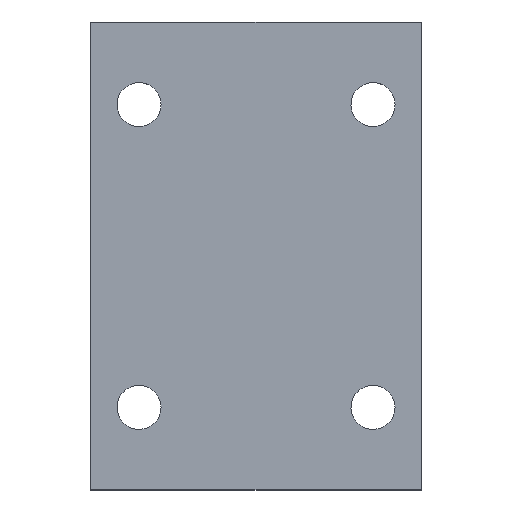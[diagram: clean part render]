
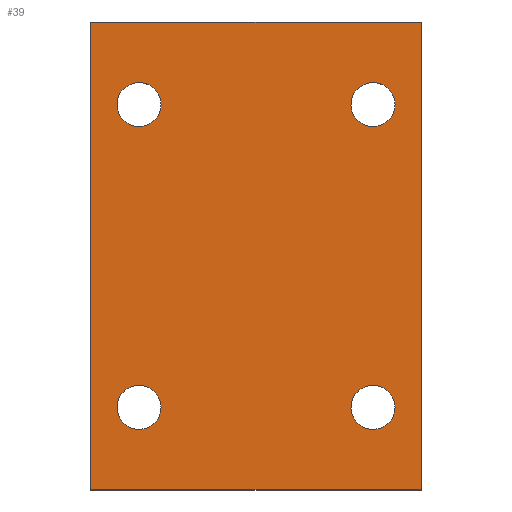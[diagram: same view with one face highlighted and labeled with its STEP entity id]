
A CAD part, top view. The second image highlights one B-rep face of the part: STEP entity #39.
In plain terms, the highlighted free-form (B-spline) face has degree [1, 1] with [2, 2] control points.
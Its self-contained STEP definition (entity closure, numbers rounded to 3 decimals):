
#10 = VERTEX_POINT('', #11);
#11 = CARTESIAN_POINT('', (-102.037, 117., 3.6));
#16 = EDGE_CURVE('', #10, #17, #19, .T.);
#17 = VERTEX_POINT('', #18);
#18 = CARTESIAN_POINT('', (-78.037, 117., 3.6));
#19 = B_SPLINE_CURVE_WITH_KNOTS('', 1, (#20, #21), .UNSPECIFIED., .F., .U., (2, 2), (0., 24.), .UNSPECIFIED.);
#20 = CARTESIAN_POINT('', (-102.037, 117., 3.6));
#21 = CARTESIAN_POINT('', (-78.037, 117., 3.6));
#39 = ADVANCED_FACE('', (#40, #62, #78, #94, #110), #126, .T.);
#40 = FACE_OUTER_BOUND('', #41, .T.);
#41 = EDGE_LOOP('', (#42, #49, #56, #61));
#42 = ORIENTED_EDGE('', *, *, #43, .F.);
#43 = EDGE_CURVE('', #44, #10, #46, .T.);
#44 = VERTEX_POINT('', #45);
#45 = CARTESIAN_POINT('', (-102.037, 83., 3.6));
#46 = B_SPLINE_CURVE_WITH_KNOTS('', 1, (#47, #48), .UNSPECIFIED., .F., .U., (2, 2), (0., 34.), .UNSPECIFIED.);
#47 = CARTESIAN_POINT('', (-102.037, 83., 3.6));
#48 = CARTESIAN_POINT('', (-102.037, 117., 3.6));
#49 = ORIENTED_EDGE('', *, *, #50, .T.);
#50 = EDGE_CURVE('', #44, #51, #53, .T.);
#51 = VERTEX_POINT('', #52);
#52 = CARTESIAN_POINT('', (-78.037, 83., 3.6));
#53 = B_SPLINE_CURVE_WITH_KNOTS('', 1, (#54, #55), .UNSPECIFIED., .F., .U., (2, 2), (0., 24.), .UNSPECIFIED.);
#54 = CARTESIAN_POINT('', (-102.037, 83., 3.6));
#55 = CARTESIAN_POINT('', (-78.037, 83., 3.6));
#56 = ORIENTED_EDGE('', *, *, #57, .T.);
#57 = EDGE_CURVE('', #51, #17, #58, .T.);
#58 = B_SPLINE_CURVE_WITH_KNOTS('', 1, (#59, #60), .UNSPECIFIED., .F., .U., (2, 2), (0., 34.), .UNSPECIFIED.);
#59 = CARTESIAN_POINT('', (-78.037, 83., 3.6));
#60 = CARTESIAN_POINT('', (-78.037, 117., 3.6));
#61 = ORIENTED_EDGE('', *, *, #16, .F.);
#62 = FACE_BOUND('', #63, .T.);
#63 = EDGE_LOOP('', (#64));
#64 = ORIENTED_EDGE('', *, *, #65, .F.);
#65 = EDGE_CURVE('', #66, #66, #68, .T.);
#66 = VERTEX_POINT('', #67);
#67 = CARTESIAN_POINT('', (-96.937, 89., 3.6));
#68 = (
   BOUNDED_CURVE ()
   B_SPLINE_CURVE (2, (#69, #70, #71, #72, #73, #74, #75, #76, #77), .UNSPECIFIED., .T., .U.)
   B_SPLINE_CURVE_WITH_KNOTS ((3, 2, 2, 2, 3), (0., 0.25, 0.5, 0.75, 1.), .UNSPECIFIED.)
   CURVE ()
   GEOMETRIC_REPRESENTATION_ITEM ()
   RATIONAL_B_SPLINE_CURVE ((1., 0.707, 1., 0.707, 1., 0.707, 1., 0.707, 1.))
   REPRESENTATION_ITEM ('')
);
#69 = CARTESIAN_POINT('', (-96.937, 89., 3.6));
#70 = CARTESIAN_POINT('', (-96.937, 90.6, 3.6));
#71 = CARTESIAN_POINT('', (-98.537, 90.6, 3.6));
#72 = CARTESIAN_POINT('', (-100.137, 90.6, 3.6));
#73 = CARTESIAN_POINT('', (-100.137, 89., 3.6));
#74 = CARTESIAN_POINT('', (-100.137, 87.4, 3.6));
#75 = CARTESIAN_POINT('', (-98.537, 87.4, 3.6));
#76 = CARTESIAN_POINT('', (-96.937, 87.4, 3.6));
#77 = CARTESIAN_POINT('', (-96.937, 89., 3.6));
#78 = FACE_BOUND('', #79, .T.);
#79 = EDGE_LOOP('', (#80));
#80 = ORIENTED_EDGE('', *, *, #81, .F.);
#81 = EDGE_CURVE('', #82, #82, #84, .T.);
#82 = VERTEX_POINT('', #83);
#83 = CARTESIAN_POINT('', (-96.937, 111., 3.6));
#84 = (
   BOUNDED_CURVE ()
   B_SPLINE_CURVE (2, (#85, #86, #87, #88, #89, #90, #91, #92, #93), .UNSPECIFIED., .T., .U.)
   B_SPLINE_CURVE_WITH_KNOTS ((3, 2, 2, 2, 3), (0., 0.25, 0.5, 0.75, 1.), .UNSPECIFIED.)
   CURVE ()
   GEOMETRIC_REPRESENTATION_ITEM ()
   RATIONAL_B_SPLINE_CURVE ((1., 0.707, 1., 0.707, 1., 0.707, 1., 0.707, 1.))
   REPRESENTATION_ITEM ('')
);
#85 = CARTESIAN_POINT('', (-96.937, 111., 3.6));
#86 = CARTESIAN_POINT('', (-96.937, 112.6, 3.6));
#87 = CARTESIAN_POINT('', (-98.537, 112.6, 3.6));
#88 = CARTESIAN_POINT('', (-100.137, 112.6, 3.6));
#89 = CARTESIAN_POINT('', (-100.137, 111., 3.6));
#90 = CARTESIAN_POINT('', (-100.137, 109.4, 3.6));
#91 = CARTESIAN_POINT('', (-98.537, 109.4, 3.6));
#92 = CARTESIAN_POINT('', (-96.937, 109.4, 3.6));
#93 = CARTESIAN_POINT('', (-96.937, 111., 3.6));
#94 = FACE_BOUND('', #95, .T.);
#95 = EDGE_LOOP('', (#96));
#96 = ORIENTED_EDGE('', *, *, #97, .F.);
#97 = EDGE_CURVE('', #98, #98, #100, .T.);
#98 = VERTEX_POINT('', #99);
#99 = CARTESIAN_POINT('', (-79.937, 89., 3.6));
#100 = (
   BOUNDED_CURVE ()
   B_SPLINE_CURVE (2, (#101, #102, #103, #104, #105, #106, #107, #108, #109), .UNSPECIFIED., .T., .U.)
   B_SPLINE_CURVE_WITH_KNOTS ((3, 2, 2, 2, 3), (0., 0.25, 0.5, 0.75, 1.), .UNSPECIFIED.)
   CURVE ()
   GEOMETRIC_REPRESENTATION_ITEM ()
   RATIONAL_B_SPLINE_CURVE ((1., 0.707, 1., 0.707, 1., 0.707, 1., 0.707, 1.))
   REPRESENTATION_ITEM ('')
);
#101 = CARTESIAN_POINT('', (-79.937, 89., 3.6));
#102 = CARTESIAN_POINT('', (-79.937, 90.6, 3.6));
#103 = CARTESIAN_POINT('', (-81.537, 90.6, 3.6));
#104 = CARTESIAN_POINT('', (-83.137, 90.6, 3.6));
#105 = CARTESIAN_POINT('', (-83.137, 89., 3.6));
#106 = CARTESIAN_POINT('', (-83.137, 87.4, 3.6));
#107 = CARTESIAN_POINT('', (-81.537, 87.4, 3.6));
#108 = CARTESIAN_POINT('', (-79.937, 87.4, 3.6));
#109 = CARTESIAN_POINT('', (-79.937, 89., 3.6));
#110 = FACE_BOUND('', #111, .T.);
#111 = EDGE_LOOP('', (#112));
#112 = ORIENTED_EDGE('', *, *, #113, .F.);
#113 = EDGE_CURVE('', #114, #114, #116, .T.);
#114 = VERTEX_POINT('', #115);
#115 = CARTESIAN_POINT('', (-79.937, 111., 3.6));
#116 = (
   BOUNDED_CURVE ()
   B_SPLINE_CURVE (2, (#117, #118, #119, #120, #121, #122, #123, #124, #125), .UNSPECIFIED., .T., .U.)
   B_SPLINE_CURVE_WITH_KNOTS ((3, 2, 2, 2, 3), (0., 0.25, 0.5, 0.75, 1.), .UNSPECIFIED.)
   CURVE ()
   GEOMETRIC_REPRESENTATION_ITEM ()
   RATIONAL_B_SPLINE_CURVE ((1., 0.707, 1., 0.707, 1., 0.707, 1., 0.707, 1.))
   REPRESENTATION_ITEM ('')
);
#117 = CARTESIAN_POINT('', (-79.937, 111., 3.6));
#118 = CARTESIAN_POINT('', (-79.937, 112.6, 3.6));
#119 = CARTESIAN_POINT('', (-81.537, 112.6, 3.6));
#120 = CARTESIAN_POINT('', (-83.137, 112.6, 3.6));
#121 = CARTESIAN_POINT('', (-83.137, 111., 3.6));
#122 = CARTESIAN_POINT('', (-83.137, 109.4, 3.6));
#123 = CARTESIAN_POINT('', (-81.537, 109.4, 3.6));
#124 = CARTESIAN_POINT('', (-79.937, 109.4, 3.6));
#125 = CARTESIAN_POINT('', (-79.937, 111., 3.6));
#126 = B_SPLINE_SURFACE_WITH_KNOTS('', 1, 1, ((#127, #128), (#129, #130)), .UNSPECIFIED., .F., .F., .U., (2, 2), (2, 2), (0., 24.), (0., 34.), .UNSPECIFIED.);
#127 = CARTESIAN_POINT('', (-102.037, 83., 3.6));
#128 = CARTESIAN_POINT('', (-102.037, 117., 3.6));
#129 = CARTESIAN_POINT('', (-78.037, 83., 3.6));
#130 = CARTESIAN_POINT('', (-78.037, 117., 3.6));
